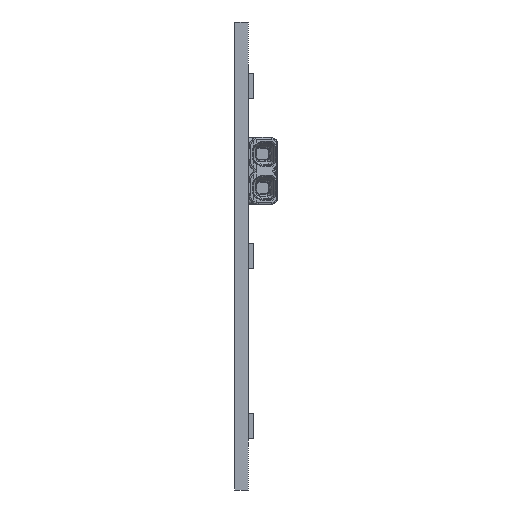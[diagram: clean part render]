
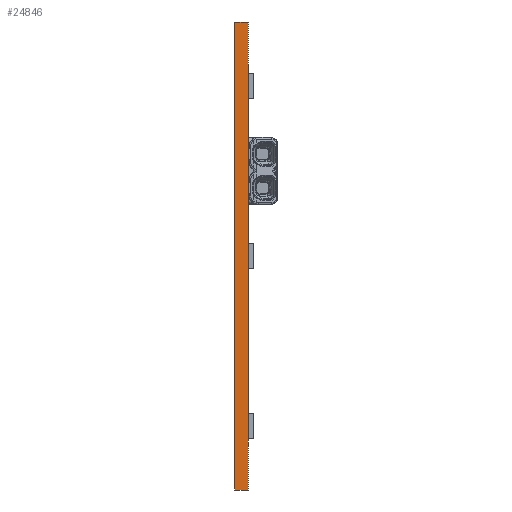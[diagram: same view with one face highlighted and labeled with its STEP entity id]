
A CAD part, left-side view. The second image highlights one B-rep face of the part: STEP entity #24846.
In plain terms, the highlighted planar face has unit normal (-1, 0, 0).
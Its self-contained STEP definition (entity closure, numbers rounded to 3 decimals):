
#2347=ORIENTED_EDGE('',*,*,#7388,.F.);
#2348=ORIENTED_EDGE('',*,*,#7437,.F.);
#2349=ORIENTED_EDGE('',*,*,#7105,.T.);
#2350=ORIENTED_EDGE('',*,*,#7438,.T.);
#7105=EDGE_CURVE('',#9766,#9764,#11402,.T.);
#7388=EDGE_CURVE('',#9972,#9969,#11658,.T.);
#7437=EDGE_CURVE('',#9766,#9972,#11683,.T.);
#7438=EDGE_CURVE('',#9764,#9969,#11684,.T.);
#9764=VERTEX_POINT('',#31713);
#9766=VERTEX_POINT('',#31716);
#9969=VERTEX_POINT('',#32641);
#9972=VERTEX_POINT('',#32646);
#11402=LINE('',#31715,#12990);
#11658=LINE('',#32647,#13246);
#11683=LINE('',#32745,#13271);
#11684=LINE('',#32746,#13272);
#12990=VECTOR('',#27296,1000.);
#13246=VECTOR('',#27720,1000.);
#13271=VECTOR('',#27795,1000.);
#13272=VECTOR('',#27796,1000.);
#14588=EDGE_LOOP('',(#2347,#2348,#2349,#2350));
#15744=FACE_BOUND('',#14588,.T.);
#16818=PLANE('',#25954);
#24846=ADVANCED_FACE('',(#15744),#16818,.T.);
#25954=AXIS2_PLACEMENT_3D('',#32744,#27793,#27794);
#27296=DIRECTION('',(0.,0.,1.));
#27720=DIRECTION('',(0.,0.,1.));
#27793=DIRECTION('',(-1.,0.,0.));
#27794=DIRECTION('',(0.,0.,1.));
#27795=DIRECTION('',(0.,1.,0.));
#27796=DIRECTION('',(0.,1.,0.));
#31713=CARTESIAN_POINT('',(-140.,-1.6,27.5));
#31715=CARTESIAN_POINT('',(-140.,-1.6,-27.5));
#31716=CARTESIAN_POINT('',(-140.,-1.6,-27.5));
#32641=CARTESIAN_POINT('',(-140.,0.,27.5));
#32646=CARTESIAN_POINT('',(-140.,0.,-27.5));
#32647=CARTESIAN_POINT('',(-140.,0.,-27.5));
#32744=CARTESIAN_POINT('',(-140.,-1.6,-27.5));
#32745=CARTESIAN_POINT('',(-140.,-1.6,-27.5));
#32746=CARTESIAN_POINT('',(-140.,-1.6,27.5));
